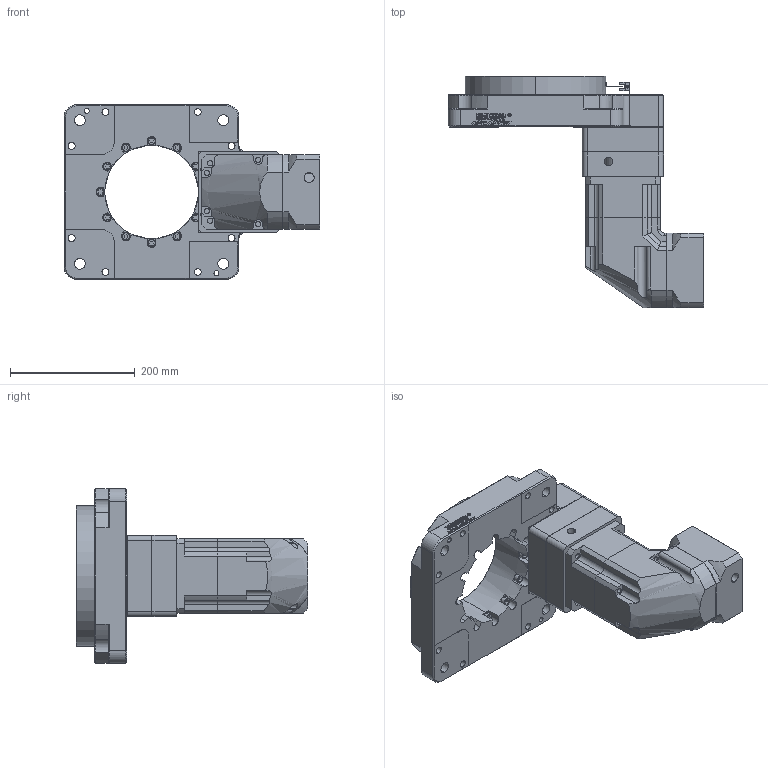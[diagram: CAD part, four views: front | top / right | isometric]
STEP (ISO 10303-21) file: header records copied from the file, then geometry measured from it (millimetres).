
FILE_DESCRIPTION(('Open CASCADE Model'),'2;1');
FILE_NAME('Open CASCADE Shape Model','2026-10-11T02:54:27',('Author'),( 'Open CASCADE'),'Open CASCADE STEP processor 7.8','Open CASCADE 7.8' ,'Unknown');
FILE_SCHEMA(('AUTOMOTIVE_DESIGN { 1 0 10303 214 1 1 1 1 }'));
Length unit declared in the file: millimetre
Products named in the file (4): NT280-Z-10-PXR120-L1-M9(配1500W伺服 输入24-110-145-M8); NT280-Z-10-PXR120-L1-M9(配1500W伺服 输入24-110-145-M8)-01; NT280-Z-10-PXR120-L1-M9(配1500W伺服 输入24-110-145-M8)-02; NT280-Z-10-PXR120-L1-M9(配1500W伺服 输入24-110-145-M8)-03
Assembly tree (3 placements, depth 2):
  NT280-Z-10-PXR120-L1-M9(配1500W伺服 输入24-110-145-M8)
    NT280-Z-10-PXR120-L1-M9(配1500W伺服 输入24-110-145-M8)-01
    NT280-Z-10-PXR120-L1-M9(配1500W伺服 输入24-110-145-M8)-02
    NT280-Z-10-PXR120-L1-M9(配1500W伺服 输入24-110-145-M8)-03
Bounding box: 409.5 x 371.5 x 280 mm (x, y, z)
Volume: 8012521.1 mm3; surface area: 716482.8 mm2
Topology: 15 solids, 16 shells, 1697 faces, 4505 edges, 2914 vertices
Faces by surface type: plane 1085, cylinder 424, cone 158, bspline 28, torus 2
Entity records: 121853 total; most frequent: CARTESIAN_POINT 35094, DIRECTION 15436, LINE 9809, VECTOR 9809, ORIENTED_EDGE 8894, PCURVE 8894, DEFINITIONAL_REPRESENTATION 8894, EDGE_CURVE 4447
